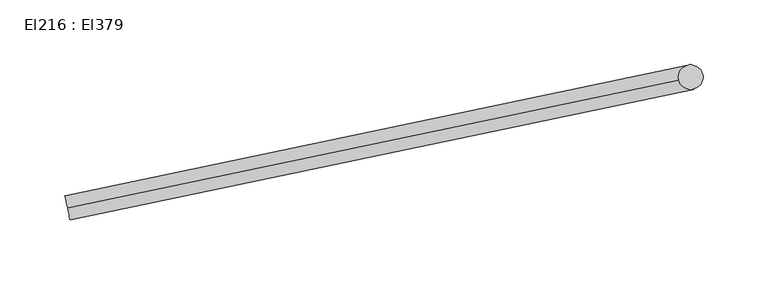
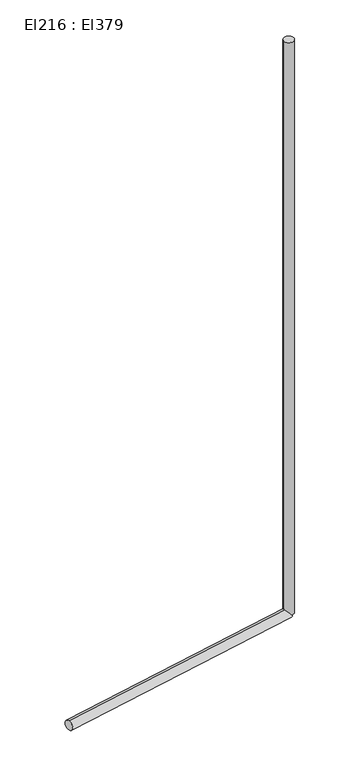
"""IFC4 building model written with IfcOpenShell, lengths in millimetres: cable carrier segment geometry, El216 : El379."""

from ifc_helpers import new_model, si_unit, point, frame, frame_2d, origin, place, context, project, spatial, circle_curve, trimmed, segment, composite_curve, outline, extrude, source, transform, mapped, element, save


def el216_el379_91f23930(model_context):
    return source(origin(), model_context, "Body", "SweptSolid", [
        extrude(outline(composite_curve([segment(trimmed(circle_curve(frame_2d((114.4726511, 19625.7952745)), 9.5), [point((104.9726511, 19625.7952745))], [point((123.9726511, 19625.7952745))], False, "CARTESIAN"), True, "CONTINUOUS"), segment(trimmed(circle_curve(frame_2d((114.4726511, 19625.7952745)), 9.5), [point((123.9726511, 19625.7952745))], [point((104.9726511, 19625.7952745))], False, "CARTESIAN"), True, "CONTINUOUS")], self_intersect=False)), frame((0.0, 0.0, 1500.0), z_axis=(0.0, 0.0, 1.0), x_axis=(1.0, 0.0, 0.0)), (0.0, 0.0, 1.0), 1160.0),
        extrude(outline(composite_curve([segment(trimmed(circle_curve(frame_2d((0.0, -9.5)), 9.5), [point((0.0, -19.0))], [point((0.0, 0.0))], False, "CARTESIAN"), True, "CONTINUOUS"), segment(trimmed(circle_curve(frame_2d((0.0, -9.5)), 9.5), [point((0.0, 0.0))], [point((0.0, -19.0))], False, "CARTESIAN"), True, "CONTINUOUS")], self_intersect=False)), frame((-365.0533489, 19525.2267745, 1509.5), z_axis=(0.9787077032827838, 0.20525893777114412, 0.0), x_axis=(-0.20525893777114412, 0.9787077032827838, 0.0)), (0.0, 0.0, 1.0), 489.958),
    ])


if __name__ == "__main__":
    model = new_model("IFC4")
    model_context = context("Model", 3, world=origin())
    ifc_project = project(units=[si_unit("LENGTHUNIT", "METRE", prefix="MILLI")], contexts=[model_context])
    site = spatial("IfcSite", under=ifc_project)
    building = spatial("IfcBuilding", under=site)
    placement = place(None, origin())
    el216_el379_shape = el216_el379_91f23930(model_context)
    element("IfcCableCarrierSegment", 1, ObjectType="El216 : El379", at=placement, inside=building, context=model_context, shape_type="MappedRepresentation", body=[
        mapped(el216_el379_shape, transform((0.0, 0.0, 0.0), x_axis=(1.0, 0.0, 0.0), y_axis=(0.0, 1.0, 0.0), z_axis=(0.0, 0.0, 1.0))),
    ])
    save(model, "model.ifc")
